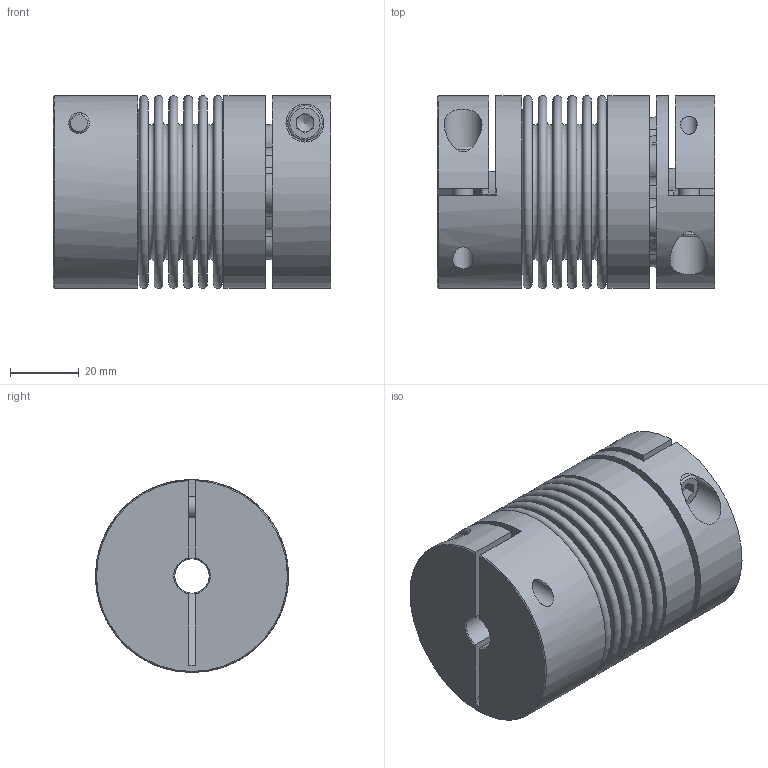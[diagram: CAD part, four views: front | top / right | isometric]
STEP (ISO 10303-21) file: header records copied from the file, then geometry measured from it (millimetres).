
FILE_DESCRIPTION( ( 'Unknown' ), '1' );
FILE_NAME( 'C:/Users/skarpstein/Desktop/KB4P/KB4P/KB4P-30-81.stp', 'Unknown', ( 'Unknown' ), ( 'Unknown' ), 'PSStep 16.0.42', 'Unknown', ' ' );
FILE_SCHEMA( ( 'AUTOMOTIVE_DESIGN { 1 0 10303 214 1 1 1 1 }' ) );
Length unit declared in the file: millimetre
Products named in the file (6): Assem1; KN30_Standard_1; Socket Head Cap Screw_DIN_DIN 912 M6 x 20 --- 20N_2; Balgaufnahme KB4P-30; Stecknabe KB4P-30; BL30_Standard_0
Assembly tree (6 placements, depth 2):
  Assem1
    KN30_Standard_1
    Socket Head Cap Screw_DIN_DIN 912 M6 x 20 --- 20N_2  x2
    Balgaufnahme KB4P-30
    Stecknabe KB4P-30
    BL30_Standard_0
Bounding box: 80.55 x 56 x 56 mm (x, y, z)
Volume: 128899.8 mm3; surface area: 71179.5 mm2
Topology: 6 solids, 6 shells, 188 faces, 428 edges, 279 vertices
Faces by surface type: plane 79, cone 55, torus 28, cylinder 26
Full cylindrical faces by diameter (mm): 4.917 x1, 6 x3, 6.4 x2, 10 x4, 11 x2, 46.5 x2, 47.3 x2, 56 x3
Entity records: 6240 total; most frequent: CARTESIAN_POINT 1056, DIRECTION 860, ORIENTED_EDGE 650, AXIS2_PLACEMENT_3D 376, EDGE_CURVE 325, VERTEX_POINT 254, EDGE_LOOP 252, FACE_OUTER_BOUND 208
